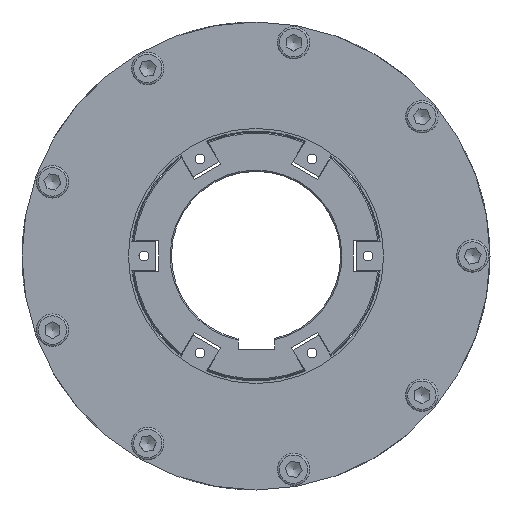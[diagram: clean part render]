
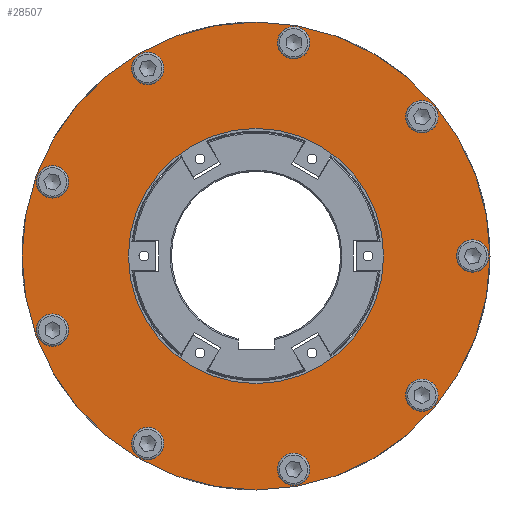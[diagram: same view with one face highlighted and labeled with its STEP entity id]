
A CAD part, left-side view. The second image highlights one B-rep face of the part: STEP entity #28507.
In plain terms, the highlighted planar face has unit normal (-1, 0, 0).
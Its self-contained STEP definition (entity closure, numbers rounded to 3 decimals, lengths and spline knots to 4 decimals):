
#998=FACE_BOUND('',#8758,.T.);
#999=FACE_BOUND('',#8759,.T.);
#1000=FACE_BOUND('',#8760,.T.);
#1001=FACE_BOUND('',#8761,.T.);
#1002=FACE_BOUND('',#8762,.T.);
#1003=FACE_BOUND('',#8763,.T.);
#1004=FACE_BOUND('',#8764,.T.);
#1005=FACE_BOUND('',#8765,.T.);
#1006=FACE_BOUND('',#8766,.T.);
#1007=FACE_BOUND('',#8767,.T.);
#5947=PLANE('',#30843);
#7109=FACE_OUTER_BOUND('',#8757,.T.);
#8757=EDGE_LOOP('',(#23513));
#8758=EDGE_LOOP('',(#23514));
#8759=EDGE_LOOP('',(#23515));
#8760=EDGE_LOOP('',(#23516));
#8761=EDGE_LOOP('',(#23517));
#8762=EDGE_LOOP('',(#23518));
#8763=EDGE_LOOP('',(#23519));
#8764=EDGE_LOOP('',(#23520));
#8765=EDGE_LOOP('',(#23521));
#8766=EDGE_LOOP('',(#23522));
#8767=EDGE_LOOP('',(#23523));
#10255=CIRCLE('',#29909,0.2559);
#10260=CIRCLE('',#29924,0.2559);
#10265=CIRCLE('',#29939,0.2559);
#10270=CIRCLE('',#29954,0.2559);
#10273=CIRCLE('',#29966,2.0177);
#10602=CIRCLE('',#30569,3.7008);
#10717=CIRCLE('',#30791,0.2559);
#10722=CIRCLE('',#30806,0.2559);
#10727=CIRCLE('',#30821,0.2559);
#10732=CIRCLE('',#30836,0.2559);
#10737=CIRCLE('',#30844,0.2559);
#12281=VERTEX_POINT('',#55854);
#12299=VERTEX_POINT('',#55922);
#12317=VERTEX_POINT('',#55990);
#12335=VERTEX_POINT('',#56058);
#12348=VERTEX_POINT('',#56114);
#12848=VERTEX_POINT('',#57758);
#13016=VERTEX_POINT('',#58345);
#13034=VERTEX_POINT('',#58413);
#13052=VERTEX_POINT('',#58481);
#13070=VERTEX_POINT('',#58549);
#13074=VERTEX_POINT('',#58562);
#15544=EDGE_CURVE('',#12281,#12281,#10255,.T.);
#15570=EDGE_CURVE('',#12299,#12299,#10260,.T.);
#15596=EDGE_CURVE('',#12317,#12317,#10265,.T.);
#15622=EDGE_CURVE('',#12335,#12335,#10270,.T.);
#15642=EDGE_CURVE('',#12348,#12348,#10273,.T.);
#16420=EDGE_CURVE('',#12848,#12848,#10602,.T.);
#16691=EDGE_CURVE('',#13016,#13016,#10717,.T.);
#16717=EDGE_CURVE('',#13034,#13034,#10722,.T.);
#16743=EDGE_CURVE('',#13052,#13052,#10727,.T.);
#16769=EDGE_CURVE('',#13070,#13070,#10732,.T.);
#16775=EDGE_CURVE('',#13074,#13074,#10737,.T.);
#23513=ORIENTED_EDGE('',*,*,#16420,.F.);
#23514=ORIENTED_EDGE('',*,*,#15544,.T.);
#23515=ORIENTED_EDGE('',*,*,#15570,.T.);
#23516=ORIENTED_EDGE('',*,*,#15596,.T.);
#23517=ORIENTED_EDGE('',*,*,#15622,.T.);
#23518=ORIENTED_EDGE('',*,*,#15642,.T.);
#23519=ORIENTED_EDGE('',*,*,#16691,.T.);
#23520=ORIENTED_EDGE('',*,*,#16717,.T.);
#23521=ORIENTED_EDGE('',*,*,#16743,.T.);
#23522=ORIENTED_EDGE('',*,*,#16769,.T.);
#23523=ORIENTED_EDGE('',*,*,#16775,.T.);
#28507=ADVANCED_FACE('',(#7109,#998,#999,#1000,#1001,#1002,#1003,#1004,
#1005,#1006,#1007),#5947,.T.);
#29909=AXIS2_PLACEMENT_3D('',#55855,#34152,#34153);
#29924=AXIS2_PLACEMENT_3D('',#55923,#34196,#34197);
#29939=AXIS2_PLACEMENT_3D('',#55991,#34240,#34241);
#29954=AXIS2_PLACEMENT_3D('',#56059,#34284,#34285);
#29966=AXIS2_PLACEMENT_3D('',#56115,#34318,#34319);
#30569=AXIS2_PLACEMENT_3D('',#57760,#35926,#35927);
#30791=AXIS2_PLACEMENT_3D('',#58346,#36515,#36516);
#30806=AXIS2_PLACEMENT_3D('',#58414,#36559,#36560);
#30821=AXIS2_PLACEMENT_3D('',#58482,#36603,#36604);
#30836=AXIS2_PLACEMENT_3D('',#58550,#36647,#36648);
#30843=AXIS2_PLACEMENT_3D('',#58561,#36662,#36663);
#30844=AXIS2_PLACEMENT_3D('',#58563,#36664,#36665);
#34152=DIRECTION('center_axis',(1.,0.,0.));
#34153=DIRECTION('ref_axis',(0.,0.174,0.985));
#34196=DIRECTION('center_axis',(1.,0.,0.));
#34197=DIRECTION('ref_axis',(0.,-0.94,0.342));
#34240=DIRECTION('center_axis',(1.,0.,0.));
#34241=DIRECTION('ref_axis',(0.,-0.5,-0.866));
#34284=DIRECTION('center_axis',(1.,0.,0.));
#34285=DIRECTION('ref_axis',(0.,0.766,-0.643));
#34318=DIRECTION('center_axis',(1.,0.,0.));
#34319=DIRECTION('ref_axis',(0.,0.94,-0.342));
#35926=DIRECTION('center_axis',(1.,0.,0.));
#35927=DIRECTION('ref_axis',(0.,0.94,-0.342));
#36515=DIRECTION('center_axis',(1.,0.,0.));
#36516=DIRECTION('ref_axis',(0.,1.,0.));
#36559=DIRECTION('center_axis',(1.,0.,0.));
#36560=DIRECTION('ref_axis',(0.,0.174,-0.985));
#36603=DIRECTION('center_axis',(1.,0.,0.));
#36604=DIRECTION('ref_axis',(0.,-0.94,-0.342));
#36647=DIRECTION('center_axis',(1.,0.,0.));
#36648=DIRECTION('ref_axis',(0.,-0.5,0.866));
#36662=DIRECTION('center_axis',(-1.,0.,0.));
#36663=DIRECTION('ref_axis',(0.,0.342,0.94));
#36664=DIRECTION('center_axis',(1.,0.,0.));
#36665=DIRECTION('ref_axis',(0.,0.766,0.643));
#55854=CARTESIAN_POINT('',(-3.3858,1.6682,2.7143));
#55855=CARTESIAN_POINT('Origin',(-3.3858,1.7126,2.9663));
#55922=CARTESIAN_POINT('',(-3.3858,-2.3834,2.1141));
#55923=CARTESIAN_POINT('Origin',(-3.3858,-2.6239,2.2017));
#55990=CARTESIAN_POINT('',(-3.3858,-2.4959,-1.9801));
#55991=CARTESIAN_POINT('Origin',(-3.3858,-2.6239,-2.2017));
#56058=CARTESIAN_POINT('',(-3.3858,1.5166,-2.8018));
#56059=CARTESIAN_POINT('Origin',(-3.3858,1.7126,-2.9663));
#56114=CARTESIAN_POINT('',(-3.3858,0.,-2.0177));
#56115=CARTESIAN_POINT('Origin',(-3.3858,0.,
0.));
#57758=CARTESIAN_POINT('',(-3.3858,-3.7008,0.));
#57760=CARTESIAN_POINT('Origin',(-3.3858,0.,
0.));
#58345=CARTESIAN_POINT('',(-3.3858,2.9627,-1.1715));
#58346=CARTESIAN_POINT('Origin',(-3.3858,3.2186,-1.1715));
#58413=CARTESIAN_POINT('',(-3.3858,-0.6392,-3.1211));
#58414=CARTESIAN_POINT('Origin',(-3.3858,-0.5948,-3.3732));
#58481=CARTESIAN_POINT('',(-3.3858,-3.1847,0.0875));
#58482=CARTESIAN_POINT('Origin',(-3.3858,-3.4252,0.));
#58549=CARTESIAN_POINT('',(-3.3858,-0.4668,3.1515));
#58550=CARTESIAN_POINT('Origin',(-3.3858,-0.5948,3.3732));
#58561=CARTESIAN_POINT('Origin',(-3.3858,2.6868,-0.9779));
#58562=CARTESIAN_POINT('',(-3.3858,3.0226,1.007));
#58563=CARTESIAN_POINT('Origin',(-3.3858,3.2186,1.1715));
